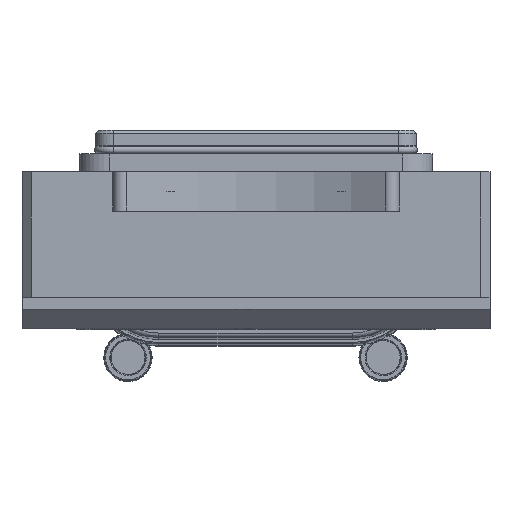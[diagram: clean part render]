
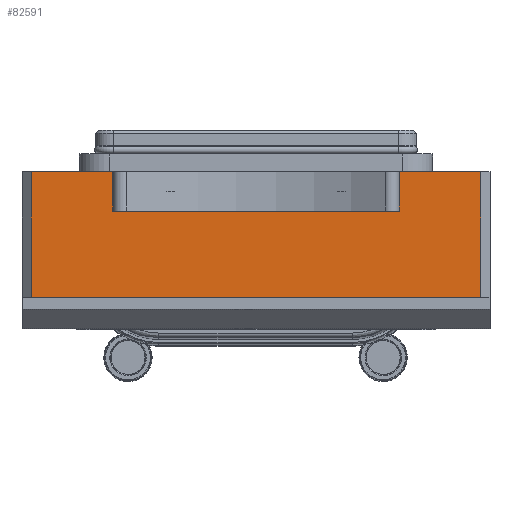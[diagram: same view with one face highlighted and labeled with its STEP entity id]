
A CAD part, front view. The second image highlights one B-rep face of the part: STEP entity #82591.
In plain terms, the highlighted planar face has unit normal (0, -1, 0).
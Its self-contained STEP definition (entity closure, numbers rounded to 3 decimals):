
#559 = EDGE_CURVE ( 'NONE', #10065, #79334, #71470, .T. ) ;
#692 = VECTOR ( 'NONE', #16240, 1000. ) ;
#1438 = CARTESIAN_POINT ( 'NONE',  ( -47.5, -45., 0. ) ) ;
#3141 = LINE ( 'NONE', #20251, #108341 ) ;
#9985 = CARTESIAN_POINT ( 'NONE',  ( -77.5, -45., -15. ) ) ;
#10065 = VERTEX_POINT ( 'NONE', #49650 ) ;
#11951 = ORIENTED_EDGE ( 'NONE', *, *, #111830, .T. ) ;
#12114 = ORIENTED_EDGE ( 'NONE', *, *, #559, .T. ) ;
#13510 = VECTOR ( 'NONE', #103444, 1000. ) ;
#16240 = DIRECTION ( 'NONE',  ( 1., 0., 0. ) ) ;
#20251 = CARTESIAN_POINT ( 'NONE',  ( -77.5, -45., 0. ) ) ;
#21255 = EDGE_CURVE ( 'NONE', #90318, #35712, #38053, .T. ) ;
#25936 = ORIENTED_EDGE ( 'NONE', *, *, #60174, .T. ) ;
#26223 = VECTOR ( 'NONE', #88040, 1000. ) ;
#26920 = CARTESIAN_POINT ( 'NONE',  ( -47.5, -45., -13. ) ) ;
#31094 = CARTESIAN_POINT ( 'NONE',  ( -47.5, -45., -13. ) ) ;
#35622 = VECTOR ( 'NONE', #56770, 1000. ) ;
#35712 = VERTEX_POINT ( 'NONE', #95787 ) ;
#38053 = LINE ( 'NONE', #58335, #13510 ) ;
#38881 = ORIENTED_EDGE ( 'NONE', *, *, #67304, .T. ) ;
#39048 = CARTESIAN_POINT ( 'NONE',  ( -74.5, -45., 0. ) ) ;
#40480 = VERTEX_POINT ( 'NONE', #84627 ) ;
#42200 = CARTESIAN_POINT ( 'NONE',  ( -77.5, -45., 0. ) ) ;
#43458 = ORIENTED_EDGE ( 'NONE', *, *, #89423, .F. ) ;
#43639 = VECTOR ( 'NONE', #74725, 1000. ) ;
#44373 = DIRECTION ( 'NONE',  ( -1., 0., 0. ) ) ;
#44679 = DIRECTION ( 'NONE',  ( 0., 0., -1. ) ) ;
#45679 = EDGE_CURVE ( 'NONE', #10065, #40480, #56138, .T. ) ;
#49650 = CARTESIAN_POINT ( 'NONE',  ( 74.5, -45., -41.6 ) ) ;
#50112 = ORIENTED_EDGE ( 'NONE', *, *, #21255, .F. ) ;
#51164 = CARTESIAN_POINT ( 'NONE',  ( 74.5, -45., -15. ) ) ;
#54627 = DIRECTION ( 'NONE',  ( 0., -1., 0. ) ) ;
#55000 = PLANE ( 'NONE',  #69850 ) ;
#56138 = LINE ( 'NONE', #88402, #91716 ) ;
#56189 = LINE ( 'NONE', #31094, #35622 ) ;
#56770 = DIRECTION ( 'NONE',  ( -1., 0., 0. ) ) ;
#57730 = EDGE_CURVE ( 'NONE', #77004, #61322, #96346, .T. ) ;
#58335 = CARTESIAN_POINT ( 'NONE',  ( 47.5, -45., -13. ) ) ;
#60174 = EDGE_CURVE ( 'NONE', #108630, #61322, #104249, .T. ) ;
#60205 = FACE_OUTER_BOUND ( 'NONE', #81074, .T. ) ;
#60864 = CARTESIAN_POINT ( 'NONE',  ( -47.5, -45., -13. ) ) ;
#61322 = VERTEX_POINT ( 'NONE', #1438 ) ;
#65938 = CARTESIAN_POINT ( 'NONE',  ( -74.5, -45., -15. ) ) ;
#67304 = EDGE_CURVE ( 'NONE', #77004, #40480, #99736, .T. ) ;
#67353 = VECTOR ( 'NONE', #78352, 1000. ) ;
#69850 = AXIS2_PLACEMENT_3D ( 'NONE', #9985, #54627, #44679 ) ;
#71470 = LINE ( 'NONE', #51164, #67353 ) ;
#74725 = DIRECTION ( 'NONE',  ( 0., 0., -1. ) ) ;
#77004 = VERTEX_POINT ( 'NONE', #39048 ) ;
#78352 = DIRECTION ( 'NONE',  ( 0., 0., 1. ) ) ;
#79334 = VERTEX_POINT ( 'NONE', #84664 ) ;
#81074 = EDGE_LOOP ( 'NONE', ( #38881, #94388, #12114, #43458, #50112, #11951, #25936, #91625 ) ) ;
#82591 = ADVANCED_FACE ( 'NONE', ( #60205 ), #55000, .T. ) ;
#84627 = CARTESIAN_POINT ( 'NONE',  ( -74.5, -45., -41.6 ) ) ;
#84664 = CARTESIAN_POINT ( 'NONE',  ( 74.5, -45., 0. ) ) ;
#88040 = DIRECTION ( 'NONE',  ( 0., 0., 1. ) ) ;
#88402 = CARTESIAN_POINT ( 'NONE',  ( 94.621, -45., -41.6 ) ) ;
#89423 = EDGE_CURVE ( 'NONE', #35712, #79334, #3141, .T. ) ;
#90318 = VERTEX_POINT ( 'NONE', #98366 ) ;
#91625 = ORIENTED_EDGE ( 'NONE', *, *, #57730, .F. ) ;
#91716 = VECTOR ( 'NONE', #44373, 1000. ) ;
#94388 = ORIENTED_EDGE ( 'NONE', *, *, #45679, .F. ) ;
#95787 = CARTESIAN_POINT ( 'NONE',  ( 47.5, -45., 0. ) ) ;
#96346 = LINE ( 'NONE', #42200, #692 ) ;
#98366 = CARTESIAN_POINT ( 'NONE',  ( 47.5, -45., -13. ) ) ;
#99736 = LINE ( 'NONE', #65938, #43639 ) ;
#103444 = DIRECTION ( 'NONE',  ( 0., 0., 1. ) ) ;
#104249 = LINE ( 'NONE', #60864, #26223 ) ;
#106632 = DIRECTION ( 'NONE',  ( 1., 0., 0. ) ) ;
#108341 = VECTOR ( 'NONE', #106632, 1000. ) ;
#108630 = VERTEX_POINT ( 'NONE', #26920 ) ;
#111830 = EDGE_CURVE ( 'NONE', #90318, #108630, #56189, .T. ) ;
